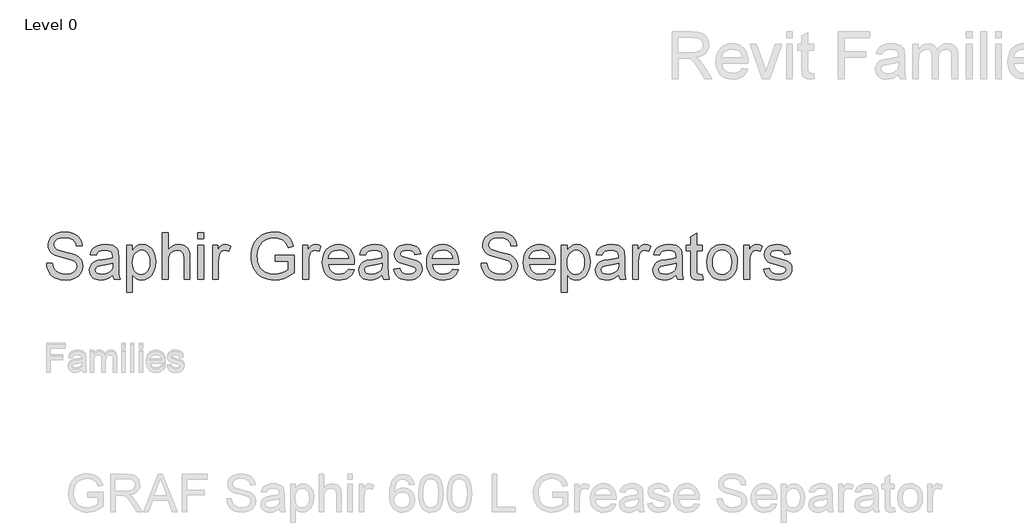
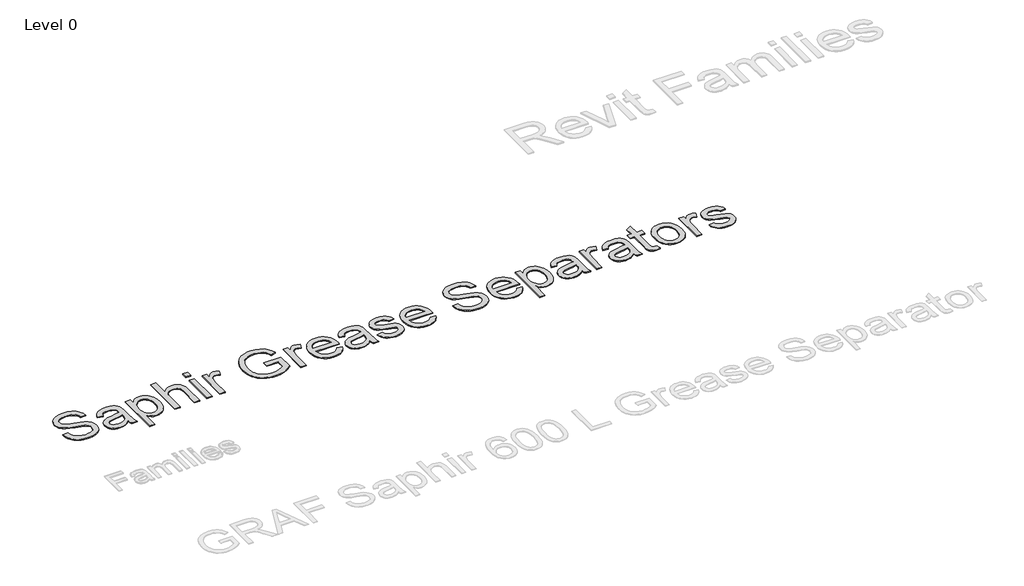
# One storey, part 6 of 15: 1 proxy.
"""IFC4 building model written with IfcOpenShell, lengths in millimetres."""

from ifc_helpers import new_model, si_unit, origin, origin_with_axes, place, context, project, spatial, polyline, outline, extrude, element, save

model = new_model("IFC4")

# Units and contexts
model_context = context("Model", 3, world=origin())
ifc_project = project(units=[si_unit("LENGTHUNIT", "METRE", prefix="MILLI")], contexts=[model_context])

# Site, building, storey
site = spatial("IfcSite", under=ifc_project)
building = spatial("IfcBuilding", under=site)
storey = spatial("IfcBuildingStorey", under=building, Name="Level 0", Elevation=0.0)

# Proxy
placement = place(None, origin())
element("IfcBuildingElementProxy", 1, Name="600mm Arial", ObjectType="600mm Arial", at=placement, inside=storey, context=model_context, shape_type="SweptSolid", body=[
    extrude(outline(polyline([(-15383.8303547, 12826.4867384), (-15321.0451609, 12826.4867384), (-15313.8408051, 12791.6452478), (-15300.8116512, 12763.6402309), (-15280.4861709, 12741.414027), (-15251.3928365, 12723.9089754), (-15215.8309103, 12712.5506188), (-15176.0996548, 12708.7644999), (-15141.1202084, 12711.6309138), (-15110.4940323, 12720.2301555), (-15085.6773261, 12733.8417893), (-15068.1262892, 12751.7453797), (-15057.6876376, 12772.3007862), (-15054.2080871, 12793.8678682), (-15056.8139179, 12814.8831271), (-15064.6314102, 12833.0473007), (-15080.5116497, 12848.5443297), (-15107.3057217, 12861.5581553), (-15198.7243975, 12885.5317986), (-15258.735148, 12901.3967097), (-15297.1328312, 12916.4951999), (-15328.3874724, 12937.6177578), (-15350.5370342, 12963.2162133), (-15363.7348007, 12992.7387434), (-15368.1340563, 13025.6335251), (-15362.6924684, 13062.4063962), (-15346.3677049, 13096.6960639), (-15334.2314312, 13112.2237497), (-15319.5889613, 13125.7587415), (-15282.7854334, 13146.8506425), (-15238.6089371, 13159.6805271), (-15189.7112886, 13163.9571553), (-15136.7362813, 13159.4812577), (-15090.3831499, 13146.0535649), (-15052.3073634, 13123.9499883), (-15036.9942754, 13109.7482105), (-15024.1643908, 13093.4464396), (-15006.3527708, 13056.4436422), (-14999.2710424, 13014.8423199), (-15062.0562363, 13014.8423199), (-15066.2562224, 13034.8765603), (-15073.5832055, 13052.3049698), (-15084.0371855, 13067.1275485), (-15097.6181625, 13079.3442964), (-15114.5790553, 13088.8938999), (-15135.1727828, 13095.7150452), (-15187.258742, 13101.1719615), (-15240.5709744, 13095.7763589), (-15260.9501041, 13089.0318556), (-15277.1445761, 13079.5895511), (-15289.4839514, 13068.2388587), (-15298.2977909, 13055.7691919), (-15303.5860945, 13042.1805507), (-15305.3488624, 13027.4729351), (-15300.3517987, 13003.3460076), (-15285.3606074, 12983.9402323), (-15271.5956894, 12975.3103339), (-15249.9213085, 12966.5884649), (-15182.844158, 12948.8688155), (-15113.6210293, 12932.0382142), (-15071.7437955, 12917.3535912), (-15035.951943, 12894.5755643), (-15010.9819526, 12866.4632485), (-14996.3126581, 12833.3232121), (-14991.4228932, 12795.4620235), (-14997.0484221, 12756.7577719), (-15013.9250086, 12720.3527828), (-15041.3628741, 12689.0214995), (-15078.6722397, 12665.5383655), (-15123.5385147, 12650.869071), (-15173.6471082, 12645.9793061), (-15235.1600434, 12651.2522814), (-15261.8353202, 12657.8435004), (-15285.789803, 12667.0712072), (-15307.1691119, 12678.9507299), (-15326.1188667, 12693.4973971), (-15342.6390676, 12710.7112088), (-15356.7297144, 12730.592165), (-15368.0804068, 12752.4964721), (-15376.3807443, 12775.7803367), (-15381.630727, 12800.4437588), (-15383.8303547, 12826.4867384)])), origin_with_axes(), (0.0, 0.0, 1.0), 10.0),
    extrude(outline(polyline([(-14669.6487748, 12700.9163507), (-14699.6464858, 12675.1952679), (-14730.533245, 12658.3646666), (-14763.0141595, 12649.0756462), (-14797.7943364, 12645.9793061), (-14825.7495359, 12647.8417087), (-14850.263506, 12653.4289165), (-14871.3362465, 12662.7409295), (-14888.9677576, 12675.7777477), (-14902.8897918, 12691.7116366), (-14912.834102, 12709.7148618), (-14918.8006881, 12729.7874231), (-14920.7895501, 12751.9293207), (-14917.7851805, 12777.9569719), (-14908.7720716, 12801.5933901), (-14894.8691979, 12821.8268998), (-14877.1955337, 12837.6458256), (-14856.4255294, 12849.6019904), (-14833.2336353, 12858.2472173), (-14778.9097273, 12867.6895219), (-14714.7143192, 12877.6223357), (-14670.0166568, 12889.2719322), (-14669.6487748, 12903.2514481), (-14673.9713882, 12931.2717934), (-14686.9392285, 12949.6045795), (-14700.0143678, 12957.5446992), (-14715.9405925, 12963.2162133), (-14756.3462983, 12967.7534246), (-14793.7476345, 12964.7337265), (-14819.8672561, 12955.6746324), (-14837.6788761, 12938.9206732), (-14850.1562071, 12912.8163799), (-14912.9414009, 12920.6645292), (-14902.0428968, 12955.0001821), (-14885.7794469, 12981.978195), (-14862.6335381, 13002.6102436), (-14831.087657, 13017.9080032), (-14792.5060327, 13027.3809646), (-14748.2528944, 13030.5386184), (-14705.8085092, 13027.7488466), (-14672.1626351, 13019.3795312), (-14646.7941058, 13006.7949013), (-14629.1817553, 12991.3591859), (-14617.5015019, 12972.2753074), (-14609.9292642, 12948.7461881), (-14606.8635809, 12893.8091435), (-14606.8635809, 12815.6955332), (-14603.6752703, 12706.6185216), (-14598.954118, 12679.6558371), (-14591.1672825, 12653.8274553), (-14653.9524763, 12653.8274553), (-14664.0079175, 12675.6551204), (-14669.6487748, 12700.9163507)]), holes=[polyline([(-14669.6487748, 12826.4867384), (-14711.8325769, 12816.0327584), (-14770.9389508, 12807.2342473), (-14824.9562904, 12797.0561788), (-14839.0124483, 12790.0970777), (-14849.4204431, 12780.501489), (-14855.858378, 12769.0051767), (-14858.0043563, 12756.3439047), (-14853.3291893, 12737.6738934), (-14839.3036882, 12722.3761338), (-14816.2344214, 12712.1674084), (-14784.4279573, 12708.7644999), (-14750.705441, 12712.519962), (-14720.9069994, 12723.7863481), (-14696.7494151, 12740.3870231), (-14679.9494706, 12760.1453519), (-14672.4998602, 12780.501489), (-14670.0166568, 12808.7057753), (-14669.6487748, 12826.4867384)])]), origin_with_axes(), (0.0, 0.0, 1.0), 10.0),
    extrude(outline(polyline([(-14520.5339394, 12512.5607692), (-14520.5339394, 13022.6904692), (-14457.7487455, 13022.6904692), (-14457.7487455, 12961.1315486), (-14437.2699811, 12991.4971417), (-14414.3386701, 13013.186851), (-14387.6059118, 13026.2006765), (-14355.7228055, 13030.5386184), (-14333.8261626, 13029.0211052), (-14313.2630919, 13024.4685655), (-14294.0335935, 13016.8809993), (-14276.1376673, 13006.2584067), (-14259.9661879, 12992.8766991), (-14245.91003, 12977.0117881), (-14224.1436786, 12937.8323556), (-14210.9918973, 12891.5711947), (-14206.6079702, 12841.0793909), (-14211.5590487, 12787.383948), (-14226.4122842, 12739.3600192), (-14237.4334157, 12718.0841772), (-14250.6924959, 12699.4448227), (-14266.189525, 12683.4419559), (-14283.9245028, 12670.0755768), (-14322.6287544, 12652.0033738), (-14363.3257001, 12645.9793061), (-14392.1891083, 12650.0106796), (-14417.9561764, 12662.1048002), (-14440.0137677, 12680.3609442), (-14457.7487455, 12702.878388), (-14457.7487455, 12512.5607692), (-14520.5339394, 12512.5607692)]), holes=[polyline([(-14457.7487455, 12835.3159063), (-14456.0511234, 12805.0576122), (-14450.958257, 12779.029961), (-14442.4701464, 12757.2329528), (-14430.5867916, 12739.6665875), (-14416.2815469, 12726.1469242), (-14400.5277669, 12716.4900218), (-14383.3254515, 12710.6958804), (-14364.6746008, 12708.7644999), (-14345.7555027, 12710.7648583), (-14328.2389548, 12716.7659333), (-14312.124957, 12726.7677251), (-14297.4135093, 12740.7702335), (-14285.1546082, 12758.9727281), (-14276.3982503, 12781.5744782), (-14271.1444356, 12808.5754838), (-14269.393164, 12839.9757449), (-14271.1022824, 12869.9734559), (-14276.2296378, 12895.9551218), (-14284.7752299, 12917.9207426), (-14296.739059, 12935.8703183), (-14311.0787926, 12949.8191773), (-14326.7520984, 12959.782648), (-14343.7589765, 12965.7607304), (-14362.0994268, 12967.7534246), (-14380.3823955, 12965.634271), (-14397.5847109, 12959.2768102), (-14413.7063729, 12948.6810424), (-14428.7473816, 12933.8469673), (-14441.4354783, 12914.9738546), (-14450.4984045, 12892.2609735), (-14455.9361603, 12865.708324), (-14457.7487455, 12835.3159063)])]), origin_with_axes(), (0.0, 0.0, 1.0), 10.0),
    extrude(outline(polyline([(-14135.9746271, 12653.8274553), (-14135.9746271, 13156.1090061), (-14073.1894332, 13156.1090061), (-14073.1894332, 12971.4322445), (-14050.1278307, 12997.2912831), (-14024.2304711, 13015.7620249), (-13995.4973544, 13026.84447), (-13963.9284807, 13030.5386184), (-13926.0059783, 13026.5072449), (-13893.4177649, 13014.4131243), (-13867.7579958, 12995.2066184), (-13850.6208262, 12969.8380892), (-13840.9639238, 12934.9812701), (-13837.7449563, 12887.3098949), (-13837.7449563, 12653.8274553), (-13900.5301502, 12653.8274553), (-13900.5301502, 12880.8106464), (-13905.5272139, 12920.1127062), (-13911.7735437, 12935.1192259), (-13920.5184052, 12947.0294055), (-13931.5548651, 12956.0961638), (-13944.6759896, 12962.5724198), (-13977.1722325, 12967.7534246), (-14003.7057214, 12964.2585456), (-14028.6143982, 12953.7739087), (-14049.2464467, 12937.3111895), (-14062.950051, 12915.8820632), (-14070.6295877, 12887.4018654), (-14073.1894332, 12849.7859314), (-14073.1894332, 12653.8274553), (-14135.9746271, 12653.8274553)])), origin_with_axes(), (0.0, 0.0, 1.0), 10.0),
    extrude(outline(polyline([(-13751.4153148, 12653.8274553), (-13751.4153148, 13022.6904692), (-13688.630121, 13022.6904692), (-13688.630121, 12653.8274553), (-13751.4153148, 12653.8274553)])), origin_with_axes(), (0.0, 0.0, 1.0), 10.0),
    extrude(outline(polyline([(-13751.4153148, 13093.3238122), (-13751.4153148, 13156.1090061), (-13688.630121, 13156.1090061), (-13688.630121, 13093.3238122), (-13751.4153148, 13093.3238122)])), origin_with_axes(), (0.0, 0.0, 1.0), 10.0),
    extrude(outline(polyline([(-13594.4523302, 12653.8274553), (-13594.4523302, 13022.6904692), (-13539.5152856, 13022.6904692), (-13539.5152856, 12968.1213065), (-13519.2204622, 12999.7591581), (-13500.5197941, 13018.3985126), (-13481.7578123, 13027.5035919), (-13461.2790479, 13030.5386184), (-13430.0090783, 13025.6948388), (-13398.2485994, 13011.1635), (-13419.2178732, 12954.8775547), (-13441.2907929, 12964.5344571), (-13463.3637126, 12967.7534246), (-13482.1103659, 12964.6570844), (-13498.8643251, 12955.368064), (-13512.3993168, 12940.5914706), (-13521.4890678, 12921.0324112), (-13529.1226192, 12885.9609943), (-13531.6671363, 12847.7012668), (-13531.6671363, 12653.8274553), (-13594.4523302, 12653.8274553)])), origin_with_axes(), (0.0, 0.0, 1.0), 10.0),
    extrude(outline(polyline([(-12919.5114964, 12850.0311861), (-12919.5114964, 12912.8163799), (-12715.4596164, 12912.8163799), (-12715.4596164, 12725.0739351), (-12765.0470436, 12690.584998), (-12816.1979694, 12665.8449338), (-12868.7897663, 12650.945713), (-12922.699807, 12645.9793061), (-12958.7637388, 12647.9528397), (-12993.1338807, 12653.8734406), (-13025.8102325, 12663.7411087), (-13056.7927942, 12677.555844), (-13085.0813868, 12695.110713), (-13109.675831, 12716.1987819), (-13130.5761269, 12740.8200509), (-13147.7822744, 12768.9745198), (-13161.2214635, 12799.7616443), (-13170.8208843, 12832.2808798), (-13176.5805368, 12866.5322264), (-13178.500421, 12902.5156841), (-13176.588201, 12938.5029738), (-13170.8515412, 12973.2563261), (-13161.2904414, 13006.7757408), (-13147.9049017, 13039.061218), (-13130.9325126, 13068.6948791), (-13110.6108645, 13094.2588456), (-13086.9399573, 13115.7531176), (-13059.9197912, 13133.1776951), (-13030.136678, 13146.6437089), (-12998.1769297, 13156.2622902), (-12964.0405462, 13162.033439), (-12927.7275276, 13163.9571553), (-12876.0094504, 13159.4965861), (-12829.5030349, 13146.1148785), (-12790.3389308, 13124.7777228), (-12760.6477881, 13096.4508092), (-12738.6821673, 13059.7699086), (-12722.694629, 13013.370792), (-12780.5747295, 12997.0613568), (-12793.4965846, 13030.155408), (-12809.2082115, 13055.1253984), (-12829.9935442, 13073.9486938), (-12858.1365168, 13088.60266), (-12891.6904205, 13098.0296361), (-12928.7085463, 13101.1719615), (-12972.0419796, 13097.7843814), (-13009.0907622, 13087.6216413), (-13039.7169383, 13071.9559997), (-13063.7825521, 13052.0597151), (-13082.253294, 13028.9597915), (-13096.0948541, 13003.6832327), (-13110.8101339, 12956.287769), (-13115.7152271, 12905.090858), (-13114.239867, 12873.7404143), (-13109.8137868, 12845.0494507), (-13102.4369864, 12819.0179675), (-13092.1094658, 12795.6459645), (-13078.9653487, 12775.0215801), (-13063.1387587, 12757.2329528), (-13044.6296958, 12742.2800826), (-13023.43816, 12730.1629693), (-12976.9777297, 12714.1141173), (-12927.7275276, 12708.7644999), (-12884.2408101, 12712.7958735), (-12841.8270817, 12724.8899941), (-12804.992897, 12741.5519828), (-12778.2448102, 12759.2869606), (-12778.2448102, 12850.0311861), (-12919.5114964, 12850.0311861)])), origin_with_axes(), (0.0, 0.0, 1.0), 10.0),
    extrude(outline(polyline([(-12621.2818256, 12653.8274553), (-12621.2818256, 13022.6904692), (-12566.344781, 13022.6904692), (-12566.344781, 12968.1213065), (-12546.0499576, 12999.7591581), (-12527.3492895, 13018.3985126), (-12508.5873078, 13027.5035919), (-12488.1085434, 13030.5386184), (-12456.8385738, 13025.6948388), (-12425.0780949, 13011.1635), (-12446.0473686, 12954.8775547), (-12468.1202883, 12964.5344571), (-12490.193208, 12967.7534246), (-12508.9398613, 12964.6570844), (-12525.6938205, 12955.368064), (-12539.2288123, 12940.5914706), (-12548.3185632, 12921.0324112), (-12555.9521146, 12885.9609943), (-12558.4966318, 12847.7012668), (-12558.4966318, 12653.8274553), (-12621.2818256, 12653.8274553)])), origin_with_axes(), (0.0, 0.0, 1.0), 10.0),
    extrude(outline(polyline([(-12127.5841881, 12763.7015446), (-12066.0252676, 12755.8533953), (-12075.46374, 12731.1976374), (-12088.2054862, 12709.4696071), (-12104.2505061, 12690.6693043), (-12123.5987998, 12674.7967291), (-12146.0510978, 12662.1891065), (-12171.4081308, 12653.1836618), (-12199.6698986, 12647.780395), (-12230.8364014, 12645.9793061), (-12269.7935718, 12649.0871425), (-12304.5047709, 12658.4106519), (-12334.9699987, 12673.9498341), (-12361.189255, 12695.7046891), (-12382.2734919, 12723.0697446), (-12397.3336611, 12755.4395281), (-12406.3697626, 12792.8140395), (-12409.3817964, 12835.193279), (-12406.3391057, 12879.0095574), (-12397.2110337, 12917.6295027), (-12381.9975804, 12951.0531148), (-12360.6987457, 12979.2803937), (-12334.5484672, 13001.705867), (-12304.7806824, 13017.7240622), (-12271.3953914, 13027.3349794), (-12234.392594, 13030.5386184), (-12198.5815811, 13027.3426436), (-12166.1964692, 13017.7547191), (-12137.2372584, 13001.7748449), (-12111.7039486, 12979.4030211), (-12090.8611343, 12951.2370558), (-12075.9734098, 12917.8747574), (-12067.0407752, 12879.3161258), (-12064.0632303, 12835.561161), (-12064.4311122, 12818.6385892), (-12346.5966026, 12818.6385892), (-12342.9599357, 12793.5842925), (-12335.7287553, 12771.6416643), (-12324.9030611, 12752.8107047), (-12310.4828534, 12737.0914136), (-12293.2652096, 12724.6983889), (-12274.0472074, 12715.8462284), (-12252.8288469, 12710.534932), (-12229.6101281, 12708.7644999), (-12196.1941802, 12712.0447811), (-12168.0512076, 12721.8856244), (-12145.1812102, 12738.9001667), (-12127.5841881, 12763.7015446)]), holes=[polyline([(-12346.5966026, 12881.423783), (-12126.8484241, 12881.423783), (-12135.3403668, 12914.5944762), (-12151.9870271, 12938.3228649), (-12169.1088683, 12951.1987348), (-12188.5912856, 12960.3957846), (-12210.4342791, 12965.9140146), (-12234.6378487, 12967.7534246), (-12276.9596065, 12961.882641), (-12295.3728668, 12954.5441617), (-12311.9543813, 12944.2702905), (-12325.8687514, 12931.5362085), (-12336.2805783, 12916.8170966), (-12343.189862, 12900.1129548), (-12346.5966026, 12881.423783)])]), origin_with_axes(), (0.0, 0.0, 1.0), 10.0),
    extrude(outline(polyline([(-11765.8335595, 12700.9163507), (-11795.8312705, 12675.1952679), (-11826.7180297, 12658.3646666), (-11859.1989442, 12649.0756462), (-11893.9791212, 12645.9793061), (-11921.9343207, 12647.8417087), (-11946.4482907, 12653.4289165), (-11967.5210312, 12662.7409295), (-11985.1525423, 12675.7777477), (-11999.0745765, 12691.7116366), (-12009.0188867, 12709.7148618), (-12014.9854728, 12729.7874231), (-12016.9743349, 12751.9293207), (-12013.9699652, 12777.9569719), (-12004.9568564, 12801.5933901), (-11991.0539826, 12821.8268998), (-11973.3803184, 12837.6458256), (-11952.6103141, 12849.6019904), (-11929.41842, 12858.2472173), (-11875.0945121, 12867.6895219), (-11810.8991039, 12877.6223357), (-11766.2014415, 12889.2719322), (-11765.8335595, 12903.2514481), (-11770.1561729, 12931.2717934), (-11783.1240133, 12949.6045795), (-11796.1991525, 12957.5446992), (-11812.1253772, 12963.2162133), (-11852.531083, 12967.7534246), (-11889.9324192, 12964.7337265), (-11916.0520409, 12955.6746324), (-11933.8636608, 12938.9206732), (-11946.3409918, 12912.8163799), (-12009.1261856, 12920.6645292), (-11998.2276815, 12955.0001821), (-11981.9642317, 12981.978195), (-11958.8183228, 13002.6102436), (-11927.2724417, 13017.9080032), (-11888.6908175, 13027.3809646), (-11844.4376791, 13030.5386184), (-11801.9932939, 13027.7488466), (-11768.3474198, 13019.3795312), (-11742.9788905, 13006.7949013), (-11725.36654, 12991.3591859), (-11713.6862867, 12972.2753074), (-11706.1140489, 12948.7461881), (-11703.0483657, 12893.8091435), (-11703.0483657, 12815.6955332), (-11699.860055, 12706.6185216), (-11695.1389028, 12679.6558371), (-11687.3520672, 12653.8274553), (-11750.137261, 12653.8274553), (-11760.1927022, 12675.6551204), (-11765.8335595, 12700.9163507)]), holes=[polyline([(-11765.8335595, 12826.4867384), (-11808.0173616, 12816.0327584), (-11867.1237355, 12807.2342473), (-11921.1410751, 12797.0561788), (-11935.197233, 12790.0970777), (-11945.6052278, 12780.501489), (-11952.0431627, 12769.0051767), (-11954.189141, 12756.3439047), (-11949.513974, 12737.6738934), (-11935.4884729, 12722.3761338), (-11912.4192062, 12712.1674084), (-11880.612742, 12708.7644999), (-11846.8902258, 12712.519962), (-11817.0917842, 12723.7863481), (-11792.9341998, 12740.3870231), (-11776.1342554, 12760.1453519), (-11768.684645, 12780.501489), (-11766.2014415, 12808.7057753), (-11765.8335595, 12826.4867384)])]), origin_with_axes(), (0.0, 0.0, 1.0), 10.0),
    extrude(outline(polyline([(-11640.2631718, 12763.7015446), (-11577.477978, 12771.5496938), (-11567.5758209, 12744.6943081), (-11548.4153003, 12724.9513077), (-11519.8737889, 12712.8112019), (-11481.8286592, 12708.7644999), (-11444.243382, 12712.4739767), (-11417.8171921, 12723.6024071), (-11402.1822073, 12739.7279012), (-11396.9705457, 12758.4285693), (-11402.2128641, 12774.4314361), (-11417.9398194, 12786.6328556), (-11482.5644232, 12804.536446), (-11539.862044, 12821.1064642), (-11577.110096, 12835.2545926), (-11601.0377541, 12850.690308), (-11618.3741931, 12871.1230872), (-11628.9048152, 12895.2500147), (-11632.4150226, 12921.7681752), (-11629.594594, 12946.0943721), (-11621.1333081, 12968.5505022), (-11607.7975857, 12988.2475174), (-11590.3538478, 13004.2963694), (-11573.0174088, 13014.3977959), (-11550.4386513, 13022.8744102), (-11524.3343581, 13028.6225663), (-11496.4213117, 13030.5386184), (-11455.5557534, 13027.4576067), (-11420.024484, 13018.2145716), (-11391.4523157, 13003.7138896), (-11371.4640607, 12984.8599373), (-11358.2203088, 12960.2578289), (-11349.8816503, 12928.5126784), (-11412.6668441, 12920.6645292), (-11420.5916354, 12940.422858), (-11436.2726055, 12955.3067504), (-11459.8630384, 12964.641756), (-11491.5162184, 12967.7534246), (-11527.568654, 12964.7797118), (-11551.603611, 12955.8585734), (-11565.1232743, 12942.9827035), (-11569.6298287, 12928.1447964), (-11567.7597619, 12918.487894), (-11562.1495615, 12909.873324), (-11552.5539728, 12902.1784589), (-11538.7277411, 12896.0164355), (-11484.6490879, 12882.6500563), (-11392.4946481, 12853.0968694), (-11368.1531227, 12838.9640694), (-11349.6977093, 12819.6196078), (-11338.0634412, 12795.002171), (-11334.1853518, 12765.0504452), (-11338.7378915, 12734.0870439), (-11352.3955106, 12704.9630527), (-11374.6370429, 12679.9624054), (-11404.9413222, 12661.3690362), (-11441.5455807, 12649.8267386), (-11482.6870505, 12645.9793061), (-11516.4785446, 12647.8340445), (-11545.9934105, 12653.3982597), (-11571.2316483, 12662.6719516), (-11592.1932578, 12675.6551204), (-11609.315099, 12692.2864522), (-11623.0340317, 12712.5046336), (-11633.350056, 12736.3096643), (-11640.2631718, 12763.7015446)])), origin_with_axes(), (0.0, 0.0, 1.0), 10.0),
    extrude(outline(polyline([(-11005.2988481, 12763.7015446), (-10943.7399276, 12755.8533953), (-10953.1784, 12731.1976374), (-10965.9201462, 12709.4696071), (-10981.9651662, 12690.6693043), (-11001.3134599, 12674.7967291), (-11023.7657579, 12662.1891065), (-11049.1227908, 12653.1836618), (-11077.3845587, 12647.780395), (-11108.5510614, 12645.9793061), (-11147.5082319, 12649.0871425), (-11182.219431, 12658.4106519), (-11212.6846587, 12673.9498341), (-11238.9039151, 12695.7046891), (-11259.9881519, 12723.0697446), (-11275.0483211, 12755.4395281), (-11284.0844226, 12792.8140395), (-11287.0964564, 12835.193279), (-11284.0537658, 12879.0095574), (-11274.9256938, 12917.6295027), (-11259.7122404, 12951.0531148), (-11238.4134057, 12979.2803937), (-11212.2631273, 13001.705867), (-11182.4953425, 13017.7240622), (-11149.1100514, 13027.3349794), (-11112.1072541, 13030.5386184), (-11076.2962411, 13027.3426436), (-11043.9111292, 13017.7547191), (-11014.9519184, 13001.7748449), (-10989.4186087, 12979.4030211), (-10968.5757944, 12951.2370558), (-10953.6880699, 12917.8747574), (-10944.7554352, 12879.3161258), (-10941.7778903, 12835.561161), (-10942.1457723, 12818.6385892), (-11224.3112626, 12818.6385892), (-11220.6745958, 12793.5842925), (-11213.4434153, 12771.6416643), (-11202.6177212, 12752.8107047), (-11188.1975134, 12737.0914136), (-11170.9798696, 12724.6983889), (-11151.7618675, 12715.8462284), (-11130.543507, 12710.534932), (-11107.3247881, 12708.7644999), (-11073.9088402, 12712.0447811), (-11045.7658676, 12721.8856244), (-11022.8958702, 12738.9001667), (-11005.2988481, 12763.7015446)]), holes=[polyline([(-11224.3112626, 12881.423783), (-11004.5630841, 12881.423783), (-11013.0550269, 12914.5944762), (-11029.7016871, 12938.3228649), (-11046.8235283, 12951.1987348), (-11066.3059457, 12960.3957846), (-11088.1489391, 12965.9140146), (-11112.3525087, 12967.7534246), (-11154.6742666, 12961.882641), (-11173.0875269, 12954.5441617), (-11189.6690414, 12944.2702905), (-11203.5834114, 12931.5362085), (-11213.9952383, 12916.8170966), (-11220.904522, 12900.1129548), (-11224.3112626, 12881.423783)])]), origin_with_axes(), (0.0, 0.0, 1.0), 10.0),
    extrude(outline(polyline([(-10698.4852642, 12826.4867384), (-10635.7000703, 12826.4867384), (-10628.4957146, 12791.6452478), (-10615.4665606, 12763.6402309), (-10595.1410803, 12741.414027), (-10566.0477459, 12723.9089754), (-10530.4858197, 12712.5506188), (-10490.7545642, 12708.7644999), (-10455.7751178, 12711.6309138), (-10425.1489417, 12720.2301555), (-10400.3322355, 12733.8417893), (-10382.7811986, 12751.7453797), (-10372.342547, 12772.3007862), (-10368.8629965, 12793.8678682), (-10371.4688273, 12814.8831271), (-10379.2863197, 12833.0473007), (-10395.1665591, 12848.5443297), (-10421.9606311, 12861.5581553), (-10513.3793069, 12885.5317986), (-10573.3900574, 12901.3967097), (-10611.7877406, 12916.4951999), (-10643.0423818, 12937.6177578), (-10665.1919436, 12963.2162133), (-10678.3897102, 12992.7387434), (-10682.7889657, 13025.6335251), (-10677.3473779, 13062.4063962), (-10661.0226143, 13096.6960639), (-10648.8863406, 13112.2237497), (-10634.2438708, 13125.7587415), (-10597.4403428, 13146.8506425), (-10553.2638466, 13159.6805271), (-10504.366198, 13163.9571553), (-10451.3911907, 13159.4812577), (-10405.0380593, 13146.0535649), (-10366.9622728, 13123.9499883), (-10351.6491848, 13109.7482105), (-10338.8193002, 13093.4464396), (-10321.0076803, 13056.4436422), (-10313.9259519, 13014.8423199), (-10376.7111457, 13014.8423199), (-10380.9111318, 13034.8765603), (-10388.2381149, 13052.3049698), (-10398.6920949, 13067.1275485), (-10412.2730719, 13079.3442964), (-10429.2339647, 13088.8938999), (-10449.8276923, 13095.7150452), (-10501.9136514, 13101.1719615), (-10555.2258839, 13095.7763589), (-10575.6050136, 13089.0318556), (-10591.7994856, 13079.5895511), (-10604.1388608, 13068.2388587), (-10612.9527003, 13055.7691919), (-10618.241004, 13042.1805507), (-10620.0037719, 13027.4729351), (-10615.0067081, 13003.3460076), (-10600.0155168, 12983.9402323), (-10586.2505988, 12975.3103339), (-10564.5762179, 12966.5884649), (-10497.4990675, 12948.8688155), (-10428.2759387, 12932.0382142), (-10386.3987049, 12917.3535912), (-10350.6068525, 12894.5755643), (-10325.636862, 12866.4632485), (-10310.9675675, 12833.3232121), (-10306.0778026, 12795.4620235), (-10311.7033315, 12756.7577719), (-10328.579918, 12720.3527828), (-10356.0177835, 12689.0214995), (-10393.3271492, 12665.5383655), (-10438.1934242, 12650.869071), (-10488.3020176, 12645.9793061), (-10549.8149529, 12651.2522814), (-10576.4902296, 12657.8435004), (-10600.4447124, 12667.0712072), (-10621.8240213, 12678.9507299), (-10640.7737762, 12693.4973971), (-10657.293977, 12710.7112088), (-10671.3846238, 12730.592165), (-10682.7353162, 12752.4964721), (-10691.0356538, 12775.7803367), (-10696.2856364, 12800.4437588), (-10698.4852642, 12826.4867384)])), origin_with_axes(), (0.0, 0.0, 1.0), 10.0),
    extrude(outline(polyline([(-9961.4950005, 12763.7015446), (-9899.93608, 12755.8533953), (-9909.3745524, 12731.1976374), (-9922.1162986, 12709.4696071), (-9938.1613185, 12690.6693043), (-9957.5096122, 12674.7967291), (-9979.9619102, 12662.1891065), (-10005.3189432, 12653.1836618), (-10033.580711, 12647.780395), (-10064.7472138, 12645.9793061), (-10103.7043842, 12649.0871425), (-10138.4155833, 12658.4106519), (-10168.8808111, 12673.9498341), (-10195.1000674, 12695.7046891), (-10216.1843043, 12723.0697446), (-10231.2444735, 12755.4395281), (-10240.280575, 12792.8140395), (-10243.2926088, 12835.193279), (-10240.2499181, 12879.0095574), (-10231.1218461, 12917.6295027), (-10215.9083928, 12951.0531148), (-10194.6095581, 12979.2803937), (-10168.4592796, 13001.705867), (-10138.6914948, 13017.7240622), (-10105.3062038, 13027.3349794), (-10068.3034064, 13030.5386184), (-10032.4923935, 13027.3426436), (-10000.1072816, 13017.7547191), (-9971.1480708, 13001.7748449), (-9945.614761, 12979.4030211), (-9924.7719467, 12951.2370558), (-9909.8842222, 12917.8747574), (-9900.9515876, 12879.3161258), (-9897.9740427, 12835.561161), (-9898.3419246, 12818.6385892), (-10180.5074149, 12818.6385892), (-10176.8707481, 12793.5842925), (-10169.6395677, 12771.6416643), (-10158.8138735, 12752.8107047), (-10144.3936658, 12737.0914136), (-10127.176022, 12724.6983889), (-10107.9580198, 12715.8462284), (-10086.7396593, 12710.534932), (-10063.5209405, 12708.7644999), (-10030.1049926, 12712.0447811), (-10001.96202, 12721.8856244), (-9979.0920226, 12738.9001667), (-9961.4950005, 12763.7015446)]), holes=[polyline([(-10180.5074149, 12881.423783), (-9960.7592365, 12881.423783), (-9969.2511792, 12914.5944762), (-9985.8978395, 12938.3228649), (-10003.0196807, 12951.1987348), (-10022.502098, 12960.3957846), (-10044.3450915, 12965.9140146), (-10068.5486611, 12967.7534246), (-10110.8704189, 12961.882641), (-10129.2836792, 12954.5441617), (-10145.8651937, 12944.2702905), (-10159.7795638, 12931.5362085), (-10170.1913907, 12916.8170966), (-10177.1006744, 12900.1129548), (-10180.5074149, 12881.423783)])]), origin_with_axes(), (0.0, 0.0, 1.0), 10.0),
    extrude(outline(polyline([(-9835.1888488, 12512.5607692), (-9835.1888488, 13022.6904692), (-9772.403655, 13022.6904692), (-9772.403655, 12961.1315486), (-9751.9248906, 12991.4971417), (-9728.9935795, 13013.186851), (-9702.2608212, 13026.2006765), (-9670.377715, 13030.5386184), (-9648.481072, 13029.0211052), (-9627.9180014, 13024.4685655), (-9608.6885029, 13016.8809993), (-9590.7925767, 13006.2584067), (-9574.6210973, 12992.8766991), (-9560.5649394, 12977.0117881), (-9538.798588, 12937.8323556), (-9525.6468067, 12891.5711947), (-9521.2628796, 12841.0793909), (-9526.2139581, 12787.383948), (-9541.0671937, 12739.3600192), (-9552.0883251, 12718.0841772), (-9565.3474053, 12699.4448227), (-9580.8444344, 12683.4419559), (-9598.5794122, 12670.0755768), (-9637.2836638, 12652.0033738), (-9677.9806095, 12645.9793061), (-9706.8440177, 12650.0106796), (-9732.6110858, 12662.1048002), (-9754.6686771, 12680.3609442), (-9772.403655, 12702.878388), (-9772.403655, 12512.5607692), (-9835.1888488, 12512.5607692)]), holes=[polyline([(-9772.403655, 12835.3159063), (-9770.7060328, 12805.0576122), (-9765.6131665, 12779.029961), (-9757.1250559, 12757.2329528), (-9745.241701, 12739.6665875), (-9730.9364563, 12726.1469242), (-9715.1826763, 12716.4900218), (-9697.9803609, 12710.6958804), (-9679.3295102, 12708.7644999), (-9660.4104122, 12710.7648583), (-9642.8938642, 12716.7659333), (-9626.7798664, 12726.7677251), (-9612.0684187, 12740.7702335), (-9599.8095177, 12758.9727281), (-9591.0531598, 12781.5744782), (-9585.799345, 12808.5754838), (-9584.0480734, 12839.9757449), (-9585.7571919, 12869.9734559), (-9590.8845472, 12895.9551218), (-9599.4301394, 12917.9207426), (-9611.3939684, 12935.8703183), (-9625.733702, 12949.8191773), (-9641.4070079, 12959.782648), (-9658.4138859, 12965.7607304), (-9676.7543362, 12967.7534246), (-9695.037305, 12965.634271), (-9712.2396203, 12959.2768102), (-9728.3612824, 12948.6810424), (-9743.402291, 12933.8469673), (-9756.0903877, 12914.9738546), (-9765.153314, 12892.2609735), (-9770.5910697, 12865.708324), (-9772.403655, 12835.3159063)])]), origin_with_axes(), (0.0, 0.0, 1.0), 10.0),
    extrude(outline(polyline([(-9215.1850596, 12700.9163507), (-9245.1827706, 12675.1952679), (-9276.0695298, 12658.3646666), (-9308.5504443, 12649.0756462), (-9343.3306213, 12645.9793061), (-9371.2858208, 12647.8417087), (-9395.7997908, 12653.4289165), (-9416.8725314, 12662.7409295), (-9434.5040424, 12675.7777477), (-9448.4260767, 12691.7116366), (-9458.3703868, 12709.7148618), (-9464.3369729, 12729.7874231), (-9466.325835, 12751.9293207), (-9463.3214654, 12777.9569719), (-9454.3083565, 12801.5933901), (-9440.4054827, 12821.8268998), (-9422.7318186, 12837.6458256), (-9401.9618142, 12849.6019904), (-9378.7699201, 12858.2472173), (-9324.4460122, 12867.6895219), (-9260.250604, 12877.6223357), (-9215.5529416, 12889.2719322), (-9215.1850596, 12903.2514481), (-9219.507673, 12931.2717934), (-9232.4755134, 12949.6045795), (-9245.5506526, 12957.5446992), (-9261.4768773, 12963.2162133), (-9301.8825831, 12967.7534246), (-9339.2839193, 12964.7337265), (-9365.403541, 12955.6746324), (-9383.2151609, 12938.9206732), (-9395.6924919, 12912.8163799), (-9458.4776857, 12920.6645292), (-9447.5791816, 12955.0001821), (-9431.3157318, 12981.978195), (-9408.1698229, 13002.6102436), (-9376.6239418, 13017.9080032), (-9338.0423176, 13027.3809646), (-9293.7891792, 13030.5386184), (-9251.344794, 13027.7488466), (-9217.6989199, 13019.3795312), (-9192.3303907, 13006.7949013), (-9174.7180401, 12991.3591859), (-9163.0377868, 12972.2753074), (-9155.4655491, 12948.7461881), (-9152.3998658, 12893.8091435), (-9152.3998658, 12815.6955332), (-9149.2115551, 12706.6185216), (-9144.4904029, 12679.6558371), (-9136.7035673, 12653.8274553), (-9199.4887611, 12653.8274553), (-9209.5442023, 12675.6551204), (-9215.1850596, 12700.9163507)]), holes=[polyline([(-9215.1850596, 12826.4867384), (-9257.3688617, 12816.0327584), (-9316.4752356, 12807.2342473), (-9370.4925752, 12797.0561788), (-9384.5487331, 12790.0970777), (-9394.9567279, 12780.501489), (-9401.3946628, 12769.0051767), (-9403.5406411, 12756.3439047), (-9398.8654741, 12737.6738934), (-9384.839973, 12722.3761338), (-9361.7707063, 12712.1674084), (-9329.9642421, 12708.7644999), (-9296.2417259, 12712.519962), (-9266.4432843, 12723.7863481), (-9242.2856999, 12740.3870231), (-9225.4857555, 12760.1453519), (-9218.0361451, 12780.501489), (-9215.5529416, 12808.7057753), (-9215.1850596, 12826.4867384)])]), origin_with_axes(), (0.0, 0.0, 1.0), 10.0),
    extrude(outline(polyline([(-9066.0702242, 12653.8274553), (-9066.0702242, 13022.6904692), (-9011.1331796, 13022.6904692), (-9011.1331796, 12968.1213065), (-8990.8383562, 12999.7591581), (-8972.1376881, 13018.3985126), (-8953.3757064, 13027.5035919), (-8932.896942, 13030.5386184), (-8901.6269724, 13025.6948388), (-8869.8664935, 13011.1635), (-8890.8357672, 12954.8775547), (-8912.9086869, 12964.5344571), (-8934.9816066, 12967.7534246), (-8953.7282599, 12964.6570844), (-8970.4822191, 12955.368064), (-8984.0172109, 12940.5914706), (-8993.1069619, 12921.0324112), (-9000.7405133, 12885.9609943), (-9003.2850304, 12847.7012668), (-9003.2850304, 12653.8274553), (-9066.0702242, 12653.8274553)])), origin_with_axes(), (0.0, 0.0, 1.0), 10.0),
    extrude(outline(polyline([(-8595.1812704, 12700.9163507), (-8625.1789814, 12675.1952679), (-8656.0657406, 12658.3646666), (-8688.5466551, 12649.0756462), (-8723.3268321, 12645.9793061), (-8751.2820316, 12647.8417087), (-8775.7960016, 12653.4289165), (-8796.8687422, 12662.7409295), (-8814.5002532, 12675.7777477), (-8828.4222874, 12691.7116366), (-8838.3665976, 12709.7148618), (-8844.3331837, 12729.7874231), (-8846.3220458, 12751.9293207), (-8843.3176761, 12777.9569719), (-8834.3045673, 12801.5933901), (-8820.4016935, 12821.8268998), (-8802.7280293, 12837.6458256), (-8781.958025, 12849.6019904), (-8758.7661309, 12858.2472173), (-8704.442223, 12867.6895219), (-8640.2468148, 12877.6223357), (-8595.5491524, 12889.2719322), (-8595.1812704, 12903.2514481), (-8599.5038838, 12931.2717934), (-8612.4717242, 12949.6045795), (-8625.5468634, 12957.5446992), (-8641.4730881, 12963.2162133), (-8681.8787939, 12967.7534246), (-8719.2801301, 12964.7337265), (-8745.3997518, 12955.6746324), (-8763.2113717, 12938.9206732), (-8775.6887027, 12912.8163799), (-8838.4738965, 12920.6645292), (-8827.5753924, 12955.0001821), (-8811.3119426, 12981.978195), (-8788.1660337, 13002.6102436), (-8756.6201526, 13017.9080032), (-8718.0385284, 13027.3809646), (-8673.78539, 13030.5386184), (-8631.3410048, 13027.7488466), (-8597.6951307, 13019.3795312), (-8572.3266015, 13006.7949013), (-8554.7142509, 12991.3591859), (-8543.0339976, 12972.2753074), (-8535.4617599, 12948.7461881), (-8532.3960766, 12893.8091435), (-8532.3960766, 12815.6955332), (-8529.2077659, 12706.6185216), (-8524.4866137, 12679.6558371), (-8516.6997781, 12653.8274553), (-8579.4849719, 12653.8274553), (-8589.5404131, 12675.6551204), (-8595.1812704, 12700.9163507)]), holes=[polyline([(-8595.1812704, 12826.4867384), (-8637.3650725, 12816.0327584), (-8696.4714464, 12807.2342473), (-8750.488786, 12797.0561788), (-8764.5449439, 12790.0970777), (-8774.9529387, 12780.501489), (-8781.3908736, 12769.0051767), (-8783.5368519, 12756.3439047), (-8778.8616849, 12737.6738934), (-8764.8361838, 12722.3761338), (-8741.7669171, 12712.1674084), (-8709.9604529, 12708.7644999), (-8676.2379367, 12712.519962), (-8646.4394951, 12723.7863481), (-8622.2819107, 12740.3870231), (-8605.4819663, 12760.1453519), (-8598.0323559, 12780.501489), (-8595.5491524, 12808.7057753), (-8595.1812704, 12826.4867384)])]), origin_with_axes(), (0.0, 0.0, 1.0), 10.0),
    extrude(outline(polyline([(-8312.6478981, 12706.189326), (-8304.7997489, 12651.9880454), (-8351.7660169, 12645.9793061), (-8381.9016837, 12648.5851369), (-8404.3731422, 12656.4026293), (-8420.2533817, 12668.4507646), (-8430.6153912, 12683.7485243), (-8436.3175622, 12710.0214301), (-8438.2182858, 12754.995004), (-8438.2182858, 12959.9052753), (-8485.3071812, 12959.9052753), (-8485.3071812, 13022.6904692), (-8438.2182858, 13022.6904692), (-8438.2182858, 13112.3310487), (-8375.4330919, 13149.2418755), (-8375.4330919, 13022.6904692), (-8312.6478981, 13022.6904692), (-8312.6478981, 12959.9052753), (-8375.4330919, 12959.9052753), (-8375.4330919, 12756.834414), (-8372.122154, 12724.4607984), (-8361.3922625, 12712.9951429), (-8339.9937931, 12708.7644999), (-8312.6478981, 12706.189326)])), origin_with_axes(), (0.0, 0.0, 1.0), 10.0),
    extrude(outline(polyline([(-8265.5590027, 12838.2589623), (-8262.1637585, 12886.0299722), (-8251.9780257, 12927.1944346), (-8235.0018045, 12961.7523495), (-8211.2350948, 12989.7037169), (-8187.3074367, 13007.5689863), (-8160.8965751, 13020.329893), (-8132.0025101, 13027.9864371), (-8100.6252416, 13030.5386184), (-8065.9868524, 13027.430782), (-8034.6670655, 13018.1072726), (-8006.6658807, 13002.5680905), (-7981.9832981, 12980.8132354), (-7961.8379268, 12953.5784714), (-7947.4483758, 12921.5995626), (-7938.8146452, 12884.8765088), (-7935.936735, 12843.4093102), (-7941.0257693, 12779.9803228), (-7947.3870621, 12753.9450075), (-7956.2928721, 12731.695811), (-7967.6320682, 12712.4778088), (-7981.2935194, 12695.5360765), (-7997.2772256, 12680.8706141), (-8015.583187, 12668.4814215), (-8056.3107895, 12651.6048349), (-8100.6252416, 12645.9793061), (-8135.7694684, 12649.0756462), (-8167.3804953, 12658.3646666), (-8195.4583221, 12673.8463672), (-8220.002949, 12695.5207481), (-8239.9337225, 12723.0199273), (-8254.1699893, 12755.9760227), (-8262.7117494, 12794.3890343), (-8265.5590027, 12838.2589623)]), holes=[polyline([(-8202.7738089, 12838.3815896), (-8200.9573915, 12807.9278582), (-8195.5081395, 12781.5591497), (-8186.4260527, 12759.2754643), (-8173.7111313, 12741.0768019), (-8158.244759, 12726.9401698), (-8140.90832, 12716.8425754), (-8121.7018142, 12710.7840188), (-8100.6252416, 12708.7644999), (-8079.6559678, 12710.7955151), (-8060.5261041, 12716.8885607), (-8043.2356503, 12727.0436366), (-8027.7846065, 12741.2607429), (-8015.069685, 12759.6395142), (-8005.9875983, 12782.2795853), (-8000.5383462, 12809.1809562), (-7998.7219289, 12840.3436269), (-8000.5498426, 12869.8316681), (-8006.0335835, 12895.5105977), (-8015.1731519, 12917.3804159), (-8027.9685475, 12935.4411226), (-8043.4770729, 12949.5777547), (-8060.7560303, 12959.6753491), (-8079.8054199, 12965.7339057), (-8100.6252416, 12967.7534246), (-8121.7018142, 12965.7415699), (-8140.90832, 12959.7060059), (-8158.244759, 12949.6467326), (-8173.7111313, 12935.56375), (-8186.4260527, 12917.418737), (-8195.5081395, 12895.1733726), (-8200.9573915, 12868.8276568), (-8202.7738089, 12838.3815896)])]), origin_with_axes(), (0.0, 0.0, 1.0), 10.0),
    extrude(outline(polyline([(-7865.303392, 12653.8274553), (-7865.303392, 13022.6904692), (-7810.3663474, 13022.6904692), (-7810.3663474, 12968.1213065), (-7790.071524, 12999.7591581), (-7771.3708559, 13018.3985126), (-7752.6088741, 13027.5035919), (-7732.1301097, 13030.5386184), (-7700.8601401, 13025.6948388), (-7669.0996612, 13011.1635), (-7690.0689349, 12954.8775547), (-7712.1418546, 12964.5344571), (-7734.2147744, 12967.7534246), (-7752.9614277, 12964.6570844), (-7769.7153869, 12955.368064), (-7783.2503786, 12940.5914706), (-7792.3401296, 12921.0324112), (-7799.973681, 12885.9609943), (-7802.5181981, 12847.7012668), (-7802.5181981, 12653.8274553), (-7865.303392, 12653.8274553)])), origin_with_axes(), (0.0, 0.0, 1.0), 10.0),
    extrude(outline(polyline([(-7653.4033627, 12763.7015446), (-7590.6181689, 12771.5496938), (-7580.7160119, 12744.6943081), (-7561.5554913, 12724.9513077), (-7533.0139798, 12712.8112019), (-7494.9688502, 12708.7644999), (-7457.383573, 12712.4739767), (-7430.957383, 12723.6024071), (-7415.3223982, 12739.7279012), (-7410.1107366, 12758.4285693), (-7415.353055, 12774.4314361), (-7431.0800103, 12786.6328556), (-7495.7046141, 12804.536446), (-7553.0022349, 12821.1064642), (-7590.2502869, 12835.2545926), (-7614.177945, 12850.690308), (-7631.514384, 12871.1230872), (-7642.0450061, 12895.2500147), (-7645.5552135, 12921.7681752), (-7642.7347849, 12946.0943721), (-7634.273499, 12968.5505022), (-7620.9377767, 12988.2475174), (-7603.4940387, 13004.2963694), (-7586.1575997, 13014.3977959), (-7563.5788423, 13022.8744102), (-7537.474549, 13028.6225663), (-7509.5615026, 13030.5386184), (-7468.6959443, 13027.4576067), (-7433.164675, 13018.2145716), (-7404.5925067, 13003.7138896), (-7384.6042516, 12984.8599373), (-7371.3604998, 12960.2578289), (-7363.0218412, 12928.5126784), (-7425.8070351, 12920.6645292), (-7433.7318264, 12940.422858), (-7449.4127964, 12955.3067504), (-7473.0032294, 12964.641756), (-7504.6564094, 12967.7534246), (-7540.7088449, 12964.7797118), (-7564.7438019, 12955.8585734), (-7578.2634652, 12942.9827035), (-7582.7700197, 12928.1447964), (-7580.8999529, 12918.487894), (-7575.2897524, 12909.873324), (-7565.6941637, 12902.1784589), (-7551.8679321, 12896.0164355), (-7497.7892788, 12882.6500563), (-7405.634839, 12853.0968694), (-7381.2933136, 12838.9640694), (-7362.8379002, 12819.6196078), (-7351.2036321, 12795.002171), (-7347.3255428, 12765.0504452), (-7351.8780825, 12734.0870439), (-7365.5357015, 12704.9630527), (-7387.7772338, 12679.9624054), (-7418.0815132, 12661.3690362), (-7454.6857717, 12649.8267386), (-7495.8272415, 12645.9793061), (-7529.6187356, 12647.8340445), (-7559.1336015, 12653.3982597), (-7584.3718392, 12662.6719516), (-7605.3334487, 12675.6551204), (-7622.4552899, 12692.2864522), (-7636.1742226, 12712.5046336), (-7646.4902469, 12736.3096643), (-7653.4033627, 12763.7015446)])), origin_with_axes(), (0.0, 0.0, 1.0), 10.0),
])

save(model, "model.ifc")
